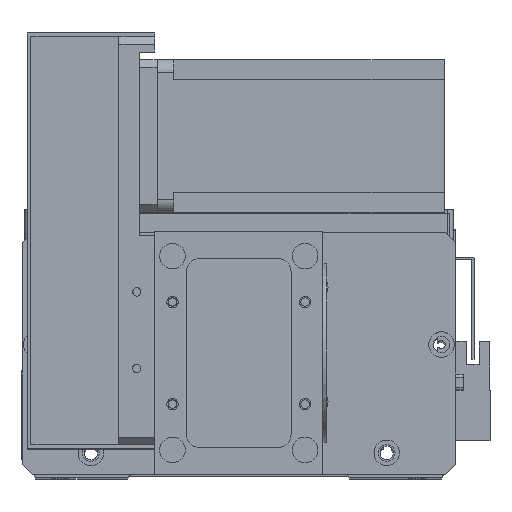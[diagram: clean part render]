
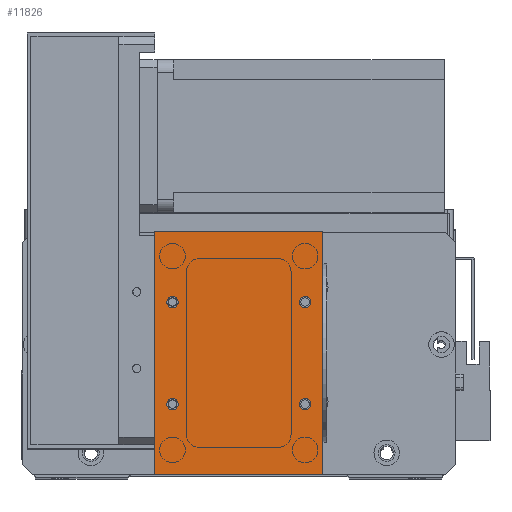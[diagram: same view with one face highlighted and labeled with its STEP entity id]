
A CAD part, top view. The second image highlights one B-rep face of the part: STEP entity #11826.
In plain terms, the highlighted planar face has unit normal (0, 0, 1).
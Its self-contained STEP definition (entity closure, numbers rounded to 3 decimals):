
#269 = DIRECTION ( 'NONE',  ( 0., 0., 1. ) ) ;
#1396 = CARTESIAN_POINT ( 'NONE',  ( 0., 0., 2. ) ) ;
#1546 = DIRECTION ( 'NONE',  ( -1., 0., 0. ) ) ;
#2077 = CARTESIAN_POINT ( 'NONE',  ( 66., 95., 2. ) ) ;
#2208 = DIRECTION ( 'NONE',  ( 1., 0., 0. ) ) ;
#2438 = CARTESIAN_POINT ( 'NONE',  ( 66., 0., 2. ) ) ;
#2525 = CARTESIAN_POINT ( 'NONE',  ( 61.25, 67.5, 2. ) ) ;
#3272 = EDGE_CURVE ( 'NONE', #18084, #3901, #8242, .T. ) ;
#3418 = CIRCLE ( 'NONE', #26860, 2.25 ) ;
#3580 = CARTESIAN_POINT ( 'NONE',  ( 59., 67.5, 2. ) ) ;
#3637 = CARTESIAN_POINT ( 'NONE',  ( 0., 0., 2. ) ) ;
#3820 = DIRECTION ( 'NONE',  ( -1., 0., 0. ) ) ;
#3893 = EDGE_CURVE ( 'NONE', #24042, #18084, #9327, .T. ) ;
#3901 = VERTEX_POINT ( 'NONE', #1396 ) ;
#4511 = ORIENTED_EDGE ( 'NONE', *, *, #13224, .T. ) ;
#4516 = FACE_BOUND ( 'NONE', #8755, .T. ) ;
#4951 = DIRECTION ( 'NONE',  ( 0., 0., 1. ) ) ;
#5023 = DIRECTION ( 'NONE',  ( 1., 0., 0. ) ) ;
#5173 = ORIENTED_EDGE ( 'NONE', *, *, #13725, .F. ) ;
#5274 = FACE_BOUND ( 'NONE', #8555, .T. ) ;
#5308 = AXIS2_PLACEMENT_3D ( 'NONE', #18111, #15811, #1546 ) ;
#5341 = CARTESIAN_POINT ( 'NONE',  ( 9.25, 27.5, 2. ) ) ;
#5445 = ORIENTED_EDGE ( 'NONE', *, *, #28754, .F. ) ;
#5929 = CARTESIAN_POINT ( 'NONE',  ( 56.75, 27.5, 2. ) ) ;
#5981 = DIRECTION ( 'NONE',  ( 1., 0., 0. ) ) ;
#6034 = DIRECTION ( 'NONE',  ( 0., -1., 0. ) ) ;
#6055 = VERTEX_POINT ( 'NONE', #2525 ) ;
#6477 = DIRECTION ( 'NONE',  ( 0., 0., 1. ) ) ;
#7028 = AXIS2_PLACEMENT_3D ( 'NONE', #12064, #28778, #14441 ) ;
#7200 = VECTOR ( 'NONE', #5023, 1000. ) ;
#7839 = ORIENTED_EDGE ( 'NONE', *, *, #9397, .F. ) ;
#8135 = VECTOR ( 'NONE', #19114, 1000. ) ;
#8242 = LINE ( 'NONE', #3637, #13082 ) ;
#8527 = CARTESIAN_POINT ( 'NONE',  ( 7., 27.5, 2. ) ) ;
#8555 = EDGE_LOOP ( 'NONE', ( #5445, #7839 ) ) ;
#8755 = EDGE_LOOP ( 'NONE', ( #10348, #23594 ) ) ;
#8977 = ORIENTED_EDGE ( 'NONE', *, *, #16300, .F. ) ;
#8981 = AXIS2_PLACEMENT_3D ( 'NONE', #8527, #25207, #10918 ) ;
#9106 = CARTESIAN_POINT ( 'NONE',  ( 0., 95., 2. ) ) ;
#9215 = VERTEX_POINT ( 'NONE', #17147 ) ;
#9327 = LINE ( 'NONE', #13253, #27630 ) ;
#9397 = EDGE_CURVE ( 'NONE', #27579, #6055, #30365, .T. ) ;
#9516 = EDGE_LOOP ( 'NONE', ( #13320, #25041 ) ) ;
#9783 = EDGE_CURVE ( 'NONE', #3901, #17336, #13514, .T. ) ;
#10348 = ORIENTED_EDGE ( 'NONE', *, *, #16872, .F. ) ;
#10918 = DIRECTION ( 'NONE',  ( 1., 0., 0. ) ) ;
#10938 = EDGE_CURVE ( 'NONE', #19550, #23650, #3418, .T. ) ;
#11166 = AXIS2_PLACEMENT_3D ( 'NONE', #26223, #11949, #28637 ) ;
#11293 = CIRCLE ( 'NONE', #7028, 2.25 ) ;
#11767 = EDGE_LOOP ( 'NONE', ( #8977, #5173 ) ) ;
#11826 = ADVANCED_FACE ( 'NONE', ( #23530, #5274, #4516, #29136, #22782 ), #13410, .F. ) ;
#11949 = DIRECTION ( 'NONE',  ( 0., 0., 1. ) ) ;
#12064 = CARTESIAN_POINT ( 'NONE',  ( 7., 27.5, 2. ) ) ;
#13082 = VECTOR ( 'NONE', #6034, 1000. ) ;
#13224 = EDGE_CURVE ( 'NONE', #17336, #24042, #25677, .T. ) ;
#13253 = CARTESIAN_POINT ( 'NONE',  ( 0., 95., 2. ) ) ;
#13320 = ORIENTED_EDGE ( 'NONE', *, *, #26097, .F. ) ;
#13410 = PLANE ( 'NONE',  #5308 ) ;
#13514 = LINE ( 'NONE', #28809, #7200 ) ;
#13725 = EDGE_CURVE ( 'NONE', #21056, #23461, #19734, .T. ) ;
#14441 = DIRECTION ( 'NONE',  ( 1., 0., 0. ) ) ;
#14523 = CARTESIAN_POINT ( 'NONE',  ( 59., 67.5, 2. ) ) ;
#14755 = AXIS2_PLACEMENT_3D ( 'NONE', #30800, #16500, #2208 ) ;
#15291 = EDGE_LOOP ( 'NONE', ( #23425, #29969, #4511, #27150 ) ) ;
#15680 = VERTEX_POINT ( 'NONE', #5341 ) ;
#15811 = DIRECTION ( 'NONE',  ( 0., 0., -1. ) ) ;
#16300 = EDGE_CURVE ( 'NONE', #23461, #21056, #24432, .T. ) ;
#16500 = DIRECTION ( 'NONE',  ( 0., 0., 1. ) ) ;
#16872 = EDGE_CURVE ( 'NONE', #23650, #19550, #27762, .T. ) ;
#16918 = DIRECTION ( 'NONE',  ( 1., 0., 0. ) ) ;
#17147 = CARTESIAN_POINT ( 'NONE',  ( 4.75, 27.5, 2. ) ) ;
#17336 = VERTEX_POINT ( 'NONE', #25210 ) ;
#17431 = CIRCLE ( 'NONE', #23837, 2.25 ) ;
#17608 = EDGE_CURVE ( 'NONE', #9215, #15680, #11293, .T. ) ;
#18084 = VERTEX_POINT ( 'NONE', #9106 ) ;
#18111 = CARTESIAN_POINT ( 'NONE',  ( 0., 0., 2. ) ) ;
#18973 = CARTESIAN_POINT ( 'NONE',  ( 56.75, 67.5, 2. ) ) ;
#19114 = DIRECTION ( 'NONE',  ( 0., 1., 0. ) ) ;
#19211 = CARTESIAN_POINT ( 'NONE',  ( 59., 27.5, 2. ) ) ;
#19550 = VERTEX_POINT ( 'NONE', #5929 ) ;
#19734 = CIRCLE ( 'NONE', #23499, 2.25 ) ;
#20267 = DIRECTION ( 'NONE',  ( 0., 0., 1. ) ) ;
#20779 = CARTESIAN_POINT ( 'NONE',  ( 7., 67.5, 2. ) ) ;
#20987 = CARTESIAN_POINT ( 'NONE',  ( 4.75, 67.5, 2. ) ) ;
#21056 = VERTEX_POINT ( 'NONE', #20987 ) ;
#21648 = DIRECTION ( 'NONE',  ( 1., 0., 0. ) ) ;
#22782 = FACE_OUTER_BOUND ( 'NONE', #15291, .T. ) ;
#23163 = DIRECTION ( 'NONE',  ( 1., 0., 0. ) ) ;
#23375 = CARTESIAN_POINT ( 'NONE',  ( 9.25, 67.5, 2. ) ) ;
#23425 = ORIENTED_EDGE ( 'NONE', *, *, #3272, .T. ) ;
#23461 = VERTEX_POINT ( 'NONE', #23375 ) ;
#23499 = AXIS2_PLACEMENT_3D ( 'NONE', #20779, #6477, #23163 ) ;
#23530 = FACE_BOUND ( 'NONE', #11767, .T. ) ;
#23594 = ORIENTED_EDGE ( 'NONE', *, *, #10938, .F. ) ;
#23650 = VERTEX_POINT ( 'NONE', #28816 ) ;
#23837 = AXIS2_PLACEMENT_3D ( 'NONE', #14523, #269, #16918 ) ;
#24042 = VERTEX_POINT ( 'NONE', #2077 ) ;
#24268 = CIRCLE ( 'NONE', #8981, 2.25 ) ;
#24432 = CIRCLE ( 'NONE', #11166, 2.25 ) ;
#25041 = ORIENTED_EDGE ( 'NONE', *, *, #17608, .F. ) ;
#25207 = DIRECTION ( 'NONE',  ( 0., 0., 1. ) ) ;
#25210 = CARTESIAN_POINT ( 'NONE',  ( 66., 0., 2. ) ) ;
#25594 = AXIS2_PLACEMENT_3D ( 'NONE', #3580, #20267, #5981 ) ;
#25677 = LINE ( 'NONE', #2438, #8135 ) ;
#26097 = EDGE_CURVE ( 'NONE', #15680, #9215, #24268, .T. ) ;
#26223 = CARTESIAN_POINT ( 'NONE',  ( 7., 67.5, 2. ) ) ;
#26860 = AXIS2_PLACEMENT_3D ( 'NONE', #19211, #4951, #21648 ) ;
#27150 = ORIENTED_EDGE ( 'NONE', *, *, #3893, .T. ) ;
#27579 = VERTEX_POINT ( 'NONE', #18973 ) ;
#27630 = VECTOR ( 'NONE', #3820, 1000. ) ;
#27762 = CIRCLE ( 'NONE', #14755, 2.25 ) ;
#28637 = DIRECTION ( 'NONE',  ( 1., 0., 0. ) ) ;
#28754 = EDGE_CURVE ( 'NONE', #6055, #27579, #17431, .T. ) ;
#28778 = DIRECTION ( 'NONE',  ( 0., 0., 1. ) ) ;
#28809 = CARTESIAN_POINT ( 'NONE',  ( 0., 0., 2. ) ) ;
#28816 = CARTESIAN_POINT ( 'NONE',  ( 61.25, 27.5, 2. ) ) ;
#29136 = FACE_BOUND ( 'NONE', #9516, .T. ) ;
#29969 = ORIENTED_EDGE ( 'NONE', *, *, #9783, .T. ) ;
#30365 = CIRCLE ( 'NONE', #25594, 2.25 ) ;
#30800 = CARTESIAN_POINT ( 'NONE',  ( 59., 27.5, 2. ) ) ;
